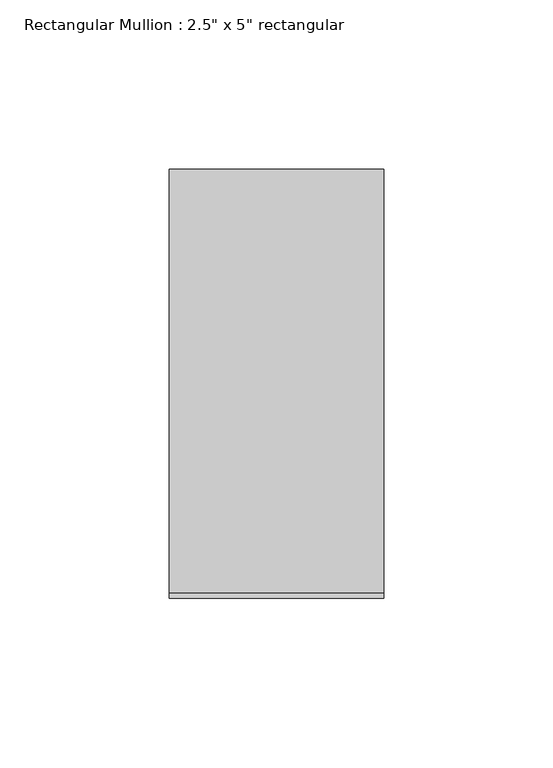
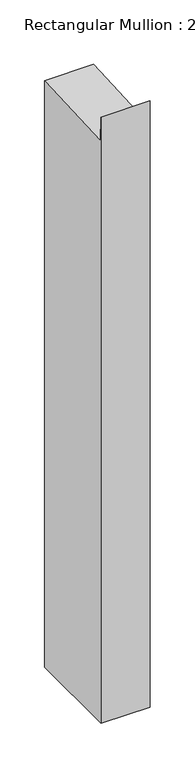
"""IFC4 building model written with IfcOpenShell, lengths in millimetres: member geometry."""

from ifc_helpers import new_model, si_unit, frame, origin, place, context, project, spatial, polyline, outline, extrude, source, transform, mapped, element, save


def member_e36a524b(model_context):
    return source(origin(), model_context, "Body", "SweptSolid", [
        extrude(outline(polyline([(-63.5, 30.1696873), (-61.8420562, -3.1193645), (63.5, 3.1232309), (63.5, -798.9692247), (-63.5, -798.9692247), (-63.5, 30.1696873)])), frame((-63.5, 0.0, 0.0), z_axis=(1.0, 0.0, 0.0), x_axis=(0.0, 1.0, 0.0)), (0.0, 0.0, 1.0), 63.5),
    ])


if __name__ == "__main__":
    model = new_model("IFC4")
    model_context = context("Model", 3, world=origin())
    ifc_project = project(units=[si_unit("LENGTHUNIT", "METRE", prefix="MILLI")], contexts=[model_context])
    site = spatial("IfcSite", under=ifc_project)
    building = spatial("IfcBuilding", under=site)
    placement = place(None, origin())
    member_shape = member_e36a524b(model_context)
    element("IfcMember", 1, ObjectType="Rectangular Mullion : 2.5\" x 5\" rectangular", at=placement, inside=building, context=model_context, shape_type="MappedRepresentation", body=[
        mapped(member_shape, transform((0.0, 0.0, 0.0), x_axis=(1.0, 0.0, 0.0), y_axis=(0.0, 1.0, 0.0), z_axis=(0.0, 0.0, 1.0))),
    ])
    save(model, "model.ifc")
